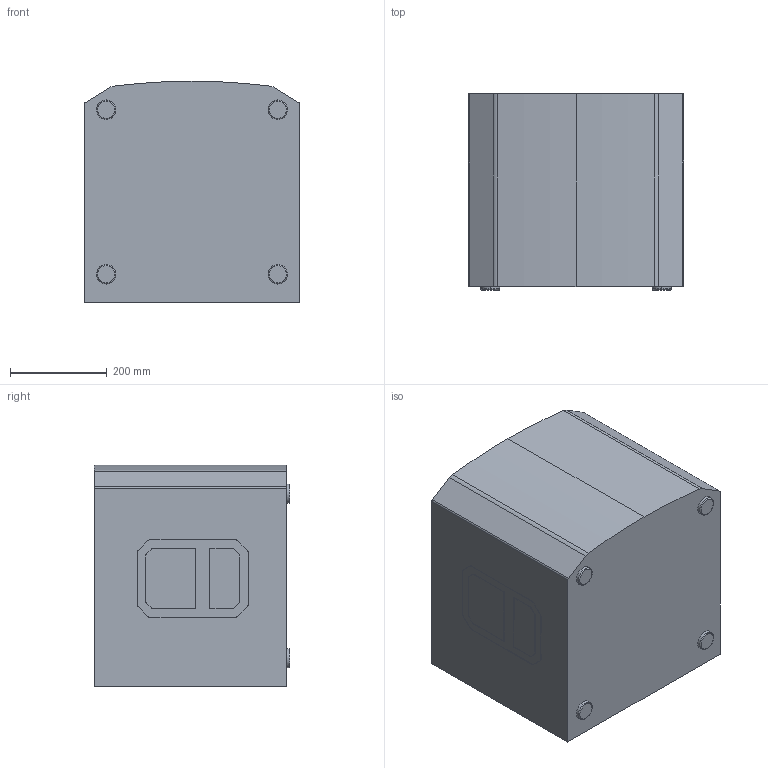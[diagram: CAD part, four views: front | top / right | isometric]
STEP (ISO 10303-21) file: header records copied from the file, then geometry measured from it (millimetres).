
FILE_DESCRIPTION (( 'STEP AP203' ), '1' );
FILE_NAME ('ELX200-12SP_SIMPLIFIED.STEP', '2018-02-21T20:49:27', ( '' ), ( '' ), 'SwSTEP 2.0', 'SolidWorks 2016', '' );
FILE_SCHEMA (( 'CONFIG_CONTROL_DESIGN' ));
Length unit declared in the file: millimetre
Products named in the file (2): ELX200-12SP_SIMPLIFIED
Bounding box: 444.5 x 404.34 x 457.2 mm (x, y, z)
Volume: 78858771.7 mm3; surface area: 1093188.2 mm2
Topology: 1 solids, 1 shells, 143 faces, 367 edges, 242 vertices
Faces by surface type: plane 71, cylinder 56, torus 8, cone 8
Entity records: 4536 total; most frequent: DIRECTION 801, CARTESIAN_POINT 754, ORIENTED_EDGE 734, EDGE_CURVE 367, AXIS2_PLACEMENT_3D 289, VERTEX_POINT 242, VECTOR 223, LINE 223
